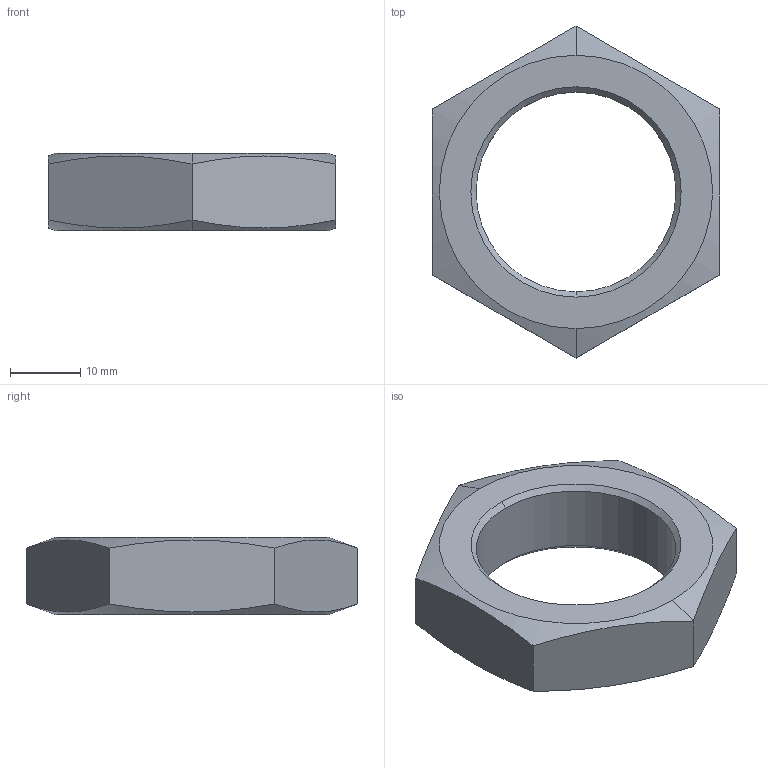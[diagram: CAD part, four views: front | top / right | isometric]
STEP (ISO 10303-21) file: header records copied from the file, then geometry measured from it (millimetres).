
FILE_DESCRIPTION((''),'2;1');
FILE_NAME('0413214718','2024-11-18T11:29:10',('GND7HC'),(''),'CREO PARAMETRIC BY PTC INC, 2023092','CREO PARAMETRIC BY PTC INC, 2023092','');
FILE_SCHEMA(('CONFIG_CONTROL_DESIGN','SHAPE_APPEARANCE_LAYERS_GROUPS'));
Length unit declared in the file: millimetre
Products named in the file (1): 0413214718
Bounding box: 41 x 47.34 x 11 mm (x, y, z)
Volume: 8706 mm3; surface area: 3923.4 mm2
Topology: 1 solids, 1 shells, 18 faces, 44 edges, 28 vertices
Faces by surface type: plane 8, cone 8, cylinder 2
Entity records: 980 total; most frequent: CARTESIAN_POINT 366, ORIENTED_EDGE 88, DIRECTION 84, PRESENTATION_STYLE_ASSIGNMENT 45, STYLED_ITEM 45, CURVE_STYLE 44, EDGE_CURVE 44, AXIS2_PLACEMENT_3D 34
